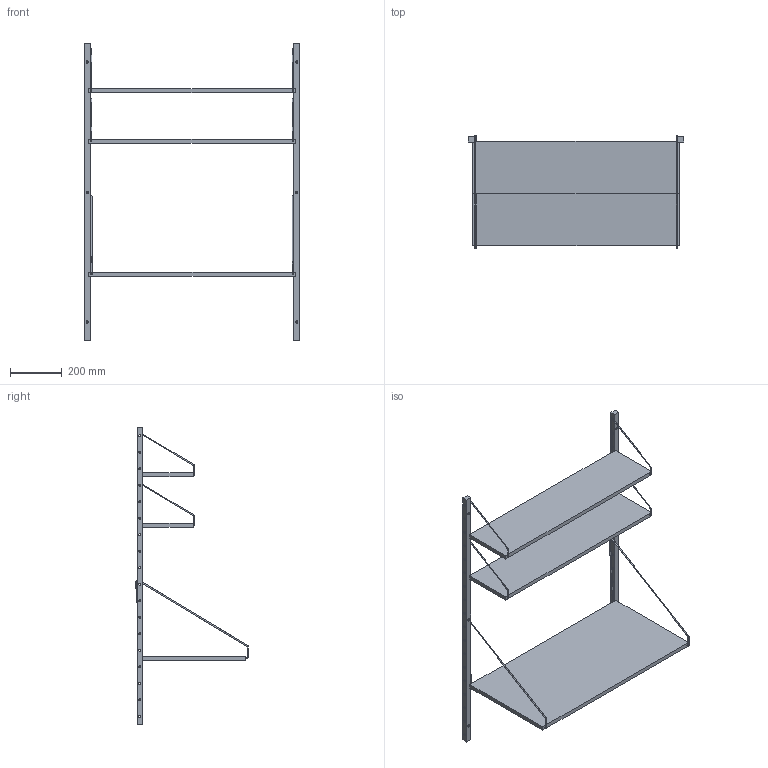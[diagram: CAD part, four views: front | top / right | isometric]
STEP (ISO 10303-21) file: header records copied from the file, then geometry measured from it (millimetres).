
FILE_DESCRIPTION(/* description */ (''),/* implementation_level */ '2;1');
FILE_NAME(/* name */ 'FRAMA_Shelf Library-Desk Section-H114.8 : W80-3D',/* time_stamp */ '2025-11-10T09:39:18+01:00',/* author */ (''),/* organization */ (''),/* preprocessor_version */ 'ST-DEVELOPER v16.5',/* originating_system */ 'Rhino 7.38',/* authorisation */ '');
FILE_SCHEMA (('CONFIG_CONTROL_DESIGN'));
Length unit declared in the file: millimetre
Products named in the file (1): Document
Bounding box: 835 x 437.21 x 1148 mm (x, y, z)
Volume: 11353692 mm3; surface area: 1663283.7 mm2
Topology: 11 solids, 11 shells, 302 faces, 750 edges, 482 vertices
Faces by surface type: cylinder 168, bspline 72, plane 62
Entity records: 16284 total; most frequent: CARTESIAN_POINT 11390, ORIENTED_EDGE 1500, EDGE_CURVE 750, VERTEX_POINT 482, EDGE_LOOP 398, ADVANCED_FACE 302, FACE_OUTER_BOUND 302, B_SPLINE_CURVE_WITH_KNOTS 262
